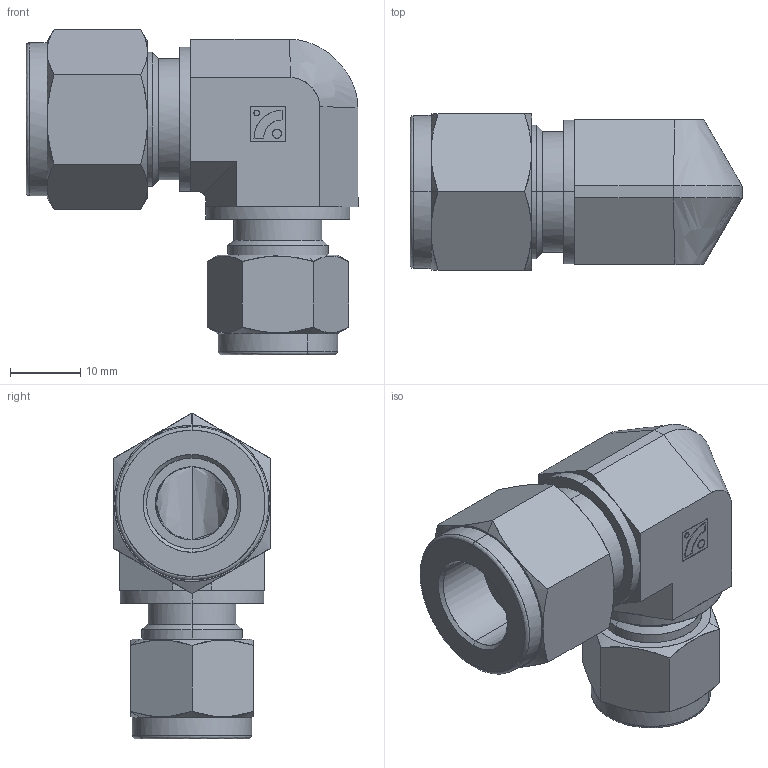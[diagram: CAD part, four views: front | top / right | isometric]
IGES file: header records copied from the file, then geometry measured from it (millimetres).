
Global section: file name: SRUE-8-6.igs; native system:  By UGS Corp.; preprocessor: XPlus GENERIC/IGES 3.0; author: Jeon; organization: BMT; date: 20120503.182448; units: millimetre
Bounding box: 47.23 x 22.23 x 46.33 mm (x, y, z)
Surface area: 9990.1 mm2 (no closed solid volume)
Topology: 0 solids, 0 shells, 136 faces, 600 edges, 600 vertices
Faces by surface type: bspline 136
